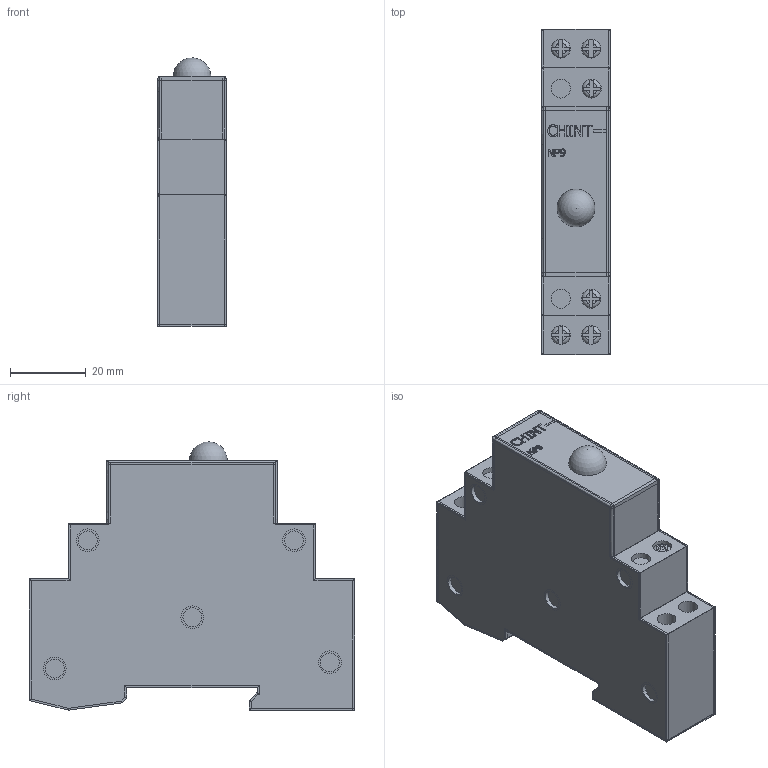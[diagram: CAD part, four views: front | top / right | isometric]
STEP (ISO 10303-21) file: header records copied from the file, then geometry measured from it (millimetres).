
FILE_DESCRIPTION(/* description */ (''),/* implementation_level */ '2;1');
FILE_NAME(/* name */ 'D:\CHINT\ND9\Свет. индикатор NP9 (CHINT).stp',/* time_stamp */ '2017-09-30T14:42:13+04:00',/* author */ ('RSagdiev'),/* organization */ (''),/* preprocessor_version */ 'ST-DEVELOPER v16.5',/* originating_system */ 'Autodesk Inventor 2017',/* authorisation */ '');
FILE_SCHEMA (('AUTOMOTIVE_DESIGN { 1 0 10303 214 3 1 1 }'));
Length unit declared in the file: millimetre
Products named in the file (1): Свет. \X2\0438043D04340438043A0430
0442043E0440\X0\ NP9  (CHINT)
Bounding box: 18 x 86 x 71 mm (x, y, z)
Surface area: 32061.7 mm2
Topology: 19 solids, 19 shells, 435 faces, 993 edges, 640 vertices
Faces by surface type: plane 268, cylinder 89, bspline 67, torus 6, sphere 5
Full cylindrical faces by diameter (mm): 5 x30, 6 x30
Entity records: 13199 total; most frequent: CARTESIAN_POINT 3891, ORIENTED_EDGE 1834, DIRECTION 1738, EDGE_CURVE 917, VERTEX_POINT 633, AXIS2_PLACEMENT_3D 594, EDGE_LOOP 568, LINE 550
